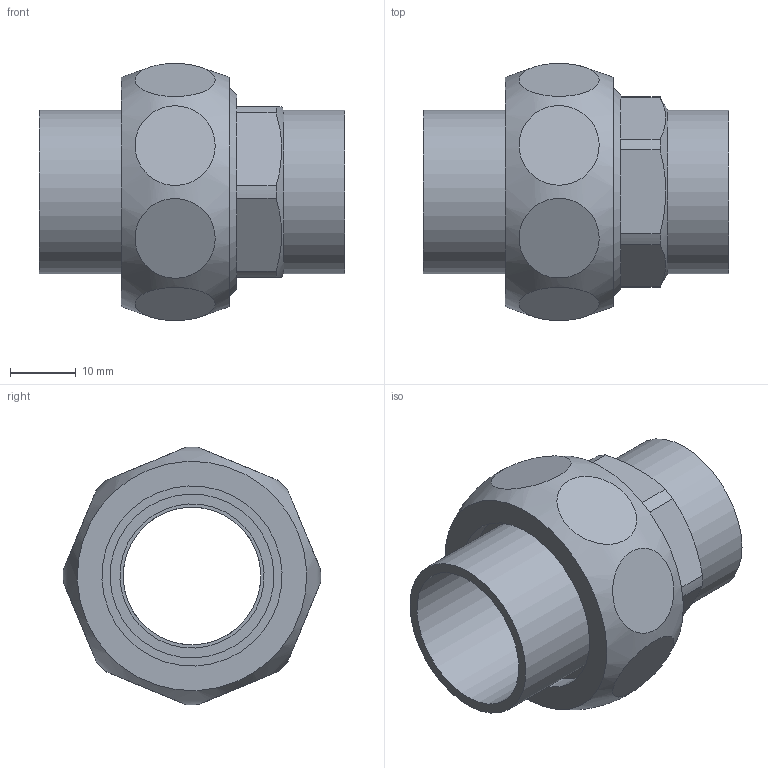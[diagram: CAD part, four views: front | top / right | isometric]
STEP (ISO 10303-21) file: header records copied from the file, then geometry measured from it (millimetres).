
FILE_DESCRIPTION((''),'2;1');
FILE_NAME('\\Lg50001\groups\SANHA Legnica\Engineering\Public\RYSUNKI\SANHA POLSKA\4340\step\14340_22(1).stp','2010-06-17T11:13:49',('pajchrowski'),(''),'Autodesk Inventor 2009','Autodesk Inventor 2009','');
FILE_SCHEMA(('AUTOMOTIVE_DESIGN { 1 0 10303 214 1 1 1 1 }'));
Length unit declared in the file: millimetre
Products named in the file (4): 14340_22(1); 14381_22-1(2); 14374_1(1); 14380_22-1(1)
Assembly tree (3 placements, depth 2):
  14340_22(1)
    14381_22-1(2)
    14374_1(1)
    14380_22-1(1)
Bounding box: 46.66 x 39.27 x 39.27 mm (x, y, z)
Volume: 16296.8 mm3; surface area: 13083.1 mm2
Topology: 3 solids, 3 shells, 50 faces, 94 edges, 63 vertices
Faces by surface type: plane 26, cylinder 17, cone 5, torus 1, bspline 1
Full cylindrical faces by diameter (mm): 21 x2, 22 x2, 25 x2, 27.5 x2, 29.5 x1, 30.291 x1, 33.249 x1
Entity records: 2509 total; most frequent: CARTESIAN_POINT 1453, DIRECTION 212, ORIENTED_EDGE 146, AXIS2_PLACEMENT_3D 97, EDGE_LOOP 88, EDGE_CURVE 73, VERTEX_POINT 61, FACE_OUTER_BOUND 50
